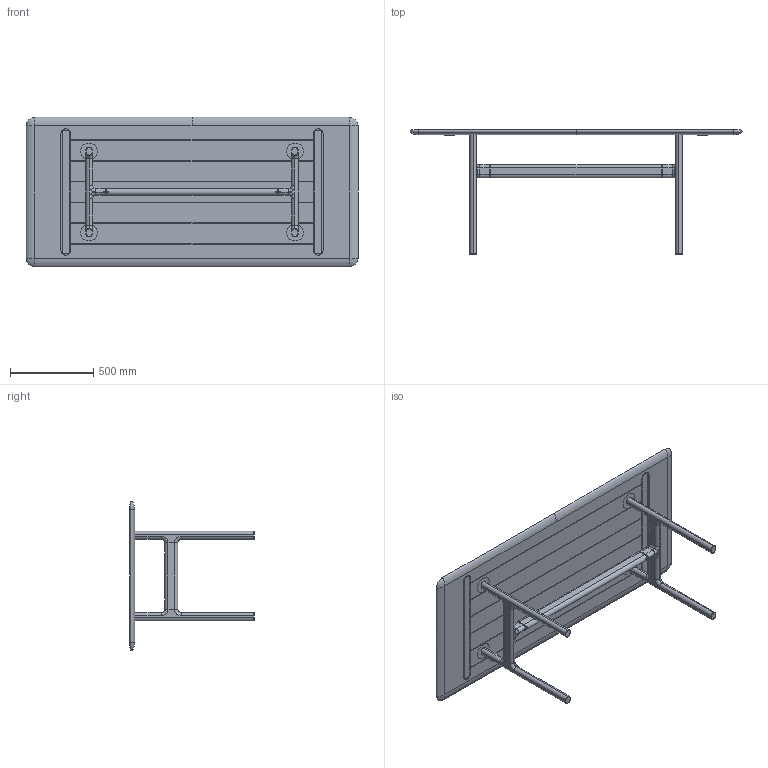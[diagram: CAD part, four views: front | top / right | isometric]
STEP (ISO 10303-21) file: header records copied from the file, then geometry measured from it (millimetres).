
FILE_DESCRIPTION (( 'STEP AP203' ), '1' );
FILE_NAME ('BRIONI DINING TABLE.STEP', '2023-06-29T11:52:56', ( '' ), ( '' ), 'SwSTEP 2.0', 'SolidWorks 2023', '' );
FILE_SCHEMA (( 'CONFIG_CONTROL_DESIGN' ));
Length unit declared in the file: millimetre
Products named in the file (2): BRIONI DINING TABLE; Group1^BRIONI DINING TABLE
Assembly tree (1 placements, depth 2):
  BRIONI DINING TABLE
    Group1^BRIONI DINING TABLE
Bounding box: 2000 x 750 x 900 mm (x, y, z)
Volume: 58646665.3 mm3; surface area: 4887858.1 mm2
Topology: 1 solids, 1 shells, 362 faces, 953 edges, 568 vertices
Faces by surface type: plane 167, cylinder 116, torus 48, cone 22, bspline 9
Entity records: 14132 total; most frequent: CARTESIAN_POINT 4889, DIRECTION 1980, ORIENTED_EDGE 1890, EDGE_CURVE 945, AXIS2_PLACEMENT_3D 701, LINE 578, VECTOR 578, VERTEX_POINT 568
